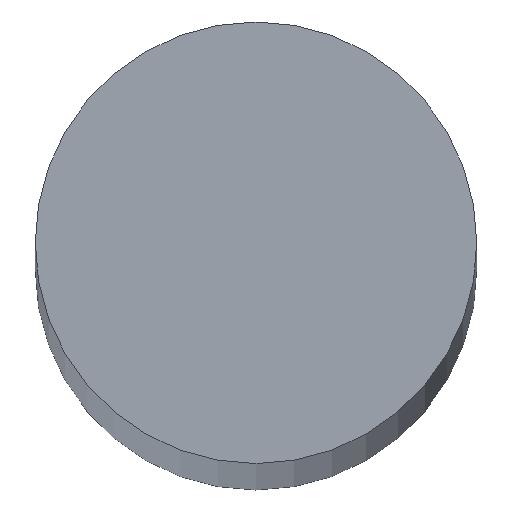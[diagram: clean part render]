
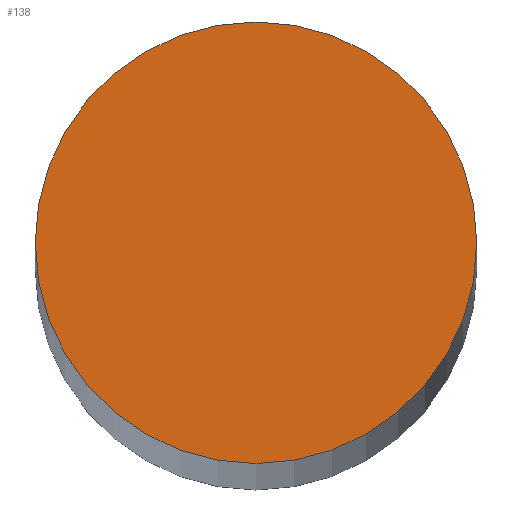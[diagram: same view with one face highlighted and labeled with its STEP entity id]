
A CAD part, top view. The second image highlights one B-rep face of the part: STEP entity #138.
In plain terms, the highlighted planar face has unit normal (0, 0, 1).
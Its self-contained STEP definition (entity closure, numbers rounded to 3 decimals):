
#3 = ORIENTED_EDGE ( 'NONE', *, *, #71, .T. ) ;
#5 = ORIENTED_EDGE ( 'NONE', *, *, #70, .T. ) ;
#14 = EDGE_LOOP ( 'NONE', ( #5, #3 ) ) ;
#29 = CIRCLE ( 'NONE', #61, 6. ) ;
#31 = CIRCLE ( 'NONE', #54, 6. ) ;
#36 = FACE_OUTER_BOUND ( 'NONE', #14, .T. ) ;
#50 = VERTEX_POINT ( 'NONE', #51 ) ;
#51 = CARTESIAN_POINT ( 'NONE',  ( -6., 0., 206. ) ) ;
#53 = VERTEX_POINT ( 'NONE', #79 ) ;
#54 = AXIS2_PLACEMENT_3D ( 'NONE', #95, #97, #98 ) ;
#55 = AXIS2_PLACEMENT_3D ( 'NONE', #112, #115, #116 ) ;
#61 = AXIS2_PLACEMENT_3D ( 'NONE', #92, #93, #94 ) ;
#70 = EDGE_CURVE ( 'NONE', #50, #53, #29, .T. ) ;
#71 = EDGE_CURVE ( 'NONE', #53, #50, #31, .T. ) ;
#79 = CARTESIAN_POINT ( 'NONE',  ( 6., 0., 206. ) ) ;
#92 = CARTESIAN_POINT ( 'NONE',  ( 0., 0., 206. ) ) ;
#93 = DIRECTION ( 'NONE',  ( 0., 0., 1. ) ) ;
#94 = DIRECTION ( 'NONE',  ( 1., 0., 0. ) ) ;
#95 = CARTESIAN_POINT ( 'NONE',  ( 0., 0., 206. ) ) ;
#97 = DIRECTION ( 'NONE',  ( 0., 0., 1. ) ) ;
#98 = DIRECTION ( 'NONE',  ( 1., 0., 0. ) ) ;
#112 = CARTESIAN_POINT ( 'NONE',  ( 0., 0., 206. ) ) ;
#113 = PLANE ( 'NONE',  #55 ) ;
#115 = DIRECTION ( 'NONE',  ( 0., 0., 1. ) ) ;
#116 = DIRECTION ( 'NONE',  ( 1., 0., 0. ) ) ;
#138 = ADVANCED_FACE ( 'NONE', ( #36 ), #113, .T. ) ;
